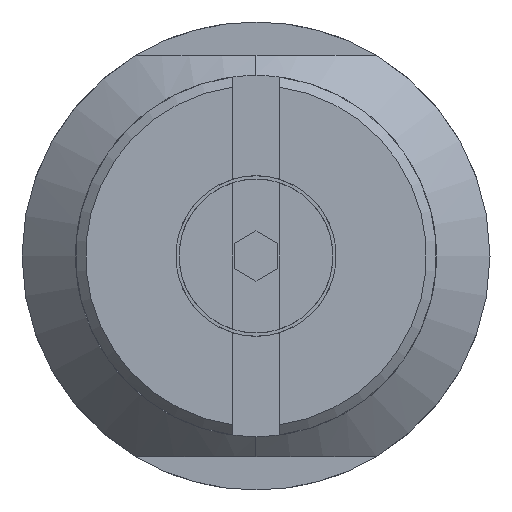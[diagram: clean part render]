
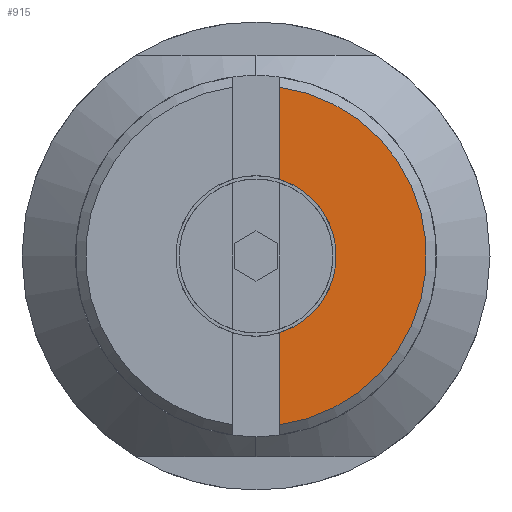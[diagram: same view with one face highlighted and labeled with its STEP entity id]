
A CAD part, left-side view. The second image highlights one B-rep face of the part: STEP entity #915.
In plain terms, the highlighted planar face has unit normal (-1, 0, 0).
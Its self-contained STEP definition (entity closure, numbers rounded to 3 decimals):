
#22 = DIRECTION ( 'NONE',  ( 0., 0., 1. ) ) ;
#154 = DIRECTION ( 'NONE',  ( 0., 0., 1. ) ) ;
#193 = FACE_OUTER_BOUND ( 'NONE', #1103, .T. ) ;
#263 = ORIENTED_EDGE ( 'NONE', *, *, #1720, .F. ) ;
#377 = CARTESIAN_POINT ( 'NONE',  ( -5.1, -0.7, 5.052 ) ) ;
#378 = CARTESIAN_POINT ( 'NONE',  ( -5.1, 0., 0. ) ) ;
#399 = DIRECTION ( 'NONE',  ( -1., 0., 0. ) ) ;
#405 = DIRECTION ( 'NONE',  ( 0., 0., 1. ) ) ;
#431 = VERTEX_POINT ( 'NONE', #377 ) ;
#501 = VERTEX_POINT ( 'NONE', #1098 ) ;
#519 = VERTEX_POINT ( 'NONE', #1703 ) ;
#574 = CARTESIAN_POINT ( 'NONE',  ( -5.1, -0.7, 0. ) ) ;
#806 = EDGE_CURVE ( 'NONE', #519, #431, #1483, .T. ) ;
#915 = ADVANCED_FACE ( 'NONE', ( #193 ), #1498, .T. ) ;
#928 = VERTEX_POINT ( 'NONE', #1529 ) ;
#948 = LINE ( 'NONE', #574, #1679 ) ;
#964 = CARTESIAN_POINT ( 'NONE',  ( -5.1, -0.7, 0. ) ) ;
#991 = CARTESIAN_POINT ( 'NONE',  ( -5.1, 0., 0. ) ) ;
#996 = DIRECTION ( 'NONE',  ( 0., 0., 1. ) ) ;
#1003 = DIRECTION ( 'NONE',  ( -1., 0., 0. ) ) ;
#1013 = DIRECTION ( 'NONE',  ( 0., 0., 1. ) ) ;
#1022 = EDGE_CURVE ( 'NONE', #928, #501, #1553, .T. ) ;
#1059 = CARTESIAN_POINT ( 'NONE',  ( -5.1, 0., 0. ) ) ;
#1077 = ORIENTED_EDGE ( 'NONE', *, *, #1022, .F. ) ;
#1098 = CARTESIAN_POINT ( 'NONE',  ( -5.1, -0.7, 2.296 ) ) ;
#1103 = EDGE_LOOP ( 'NONE', ( #1077, #263, #1792, #1740 ) ) ;
#1297 = AXIS2_PLACEMENT_3D ( 'NONE', #1059, #1769, #154 ) ;
#1392 = AXIS2_PLACEMENT_3D ( 'NONE', #378, #399, #405 ) ;
#1458 = VECTOR ( 'NONE', #996, 1000. ) ;
#1483 = CIRCLE ( 'NONE', #1392, 5.1 ) ;
#1498 = PLANE ( 'NONE',  #1297 ) ;
#1529 = CARTESIAN_POINT ( 'NONE',  ( -5.1, -0.7, -2.296 ) ) ;
#1553 = CIRCLE ( 'NONE', #1578, 2.4 ) ;
#1564 = EDGE_CURVE ( 'NONE', #501, #431, #948, .T. ) ;
#1578 = AXIS2_PLACEMENT_3D ( 'NONE', #991, #1003, #1013 ) ;
#1679 = VECTOR ( 'NONE', #22, 1000. ) ;
#1703 = CARTESIAN_POINT ( 'NONE',  ( -5.1, -0.7, -5.052 ) ) ;
#1720 = EDGE_CURVE ( 'NONE', #519, #928, #1861, .T. ) ;
#1740 = ORIENTED_EDGE ( 'NONE', *, *, #1564, .F. ) ;
#1769 = DIRECTION ( 'NONE',  ( -1., 0., 0. ) ) ;
#1792 = ORIENTED_EDGE ( 'NONE', *, *, #806, .T. ) ;
#1861 = LINE ( 'NONE', #964, #1458 ) ;
